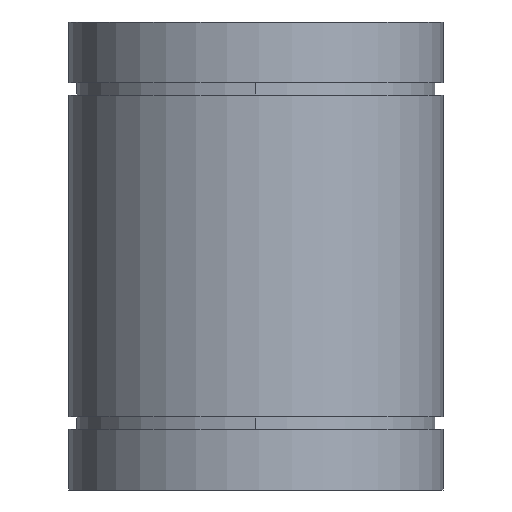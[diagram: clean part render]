
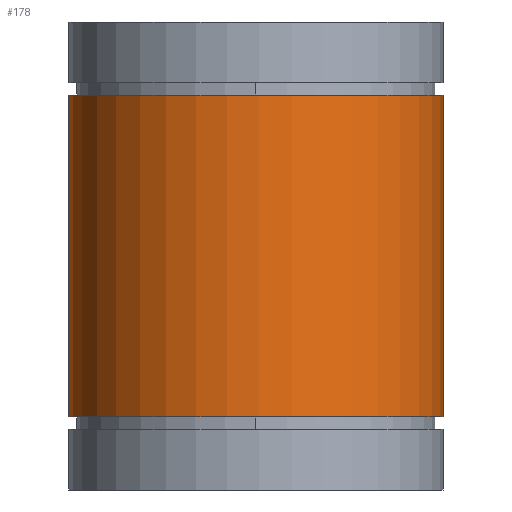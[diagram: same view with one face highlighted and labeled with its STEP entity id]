
A CAD part, front view. The second image highlights one B-rep face of the part: STEP entity #178.
In plain terms, the highlighted cylindrical face has radius 40 mm (diameter 80 mm), a partial arc.
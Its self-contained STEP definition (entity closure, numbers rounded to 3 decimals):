
#137=CARTESIAN_POINT('',(0.0,0.0,0.0));
#138=DIRECTION('',(0.0,0.0,1.0));
#139=DIRECTION('',(-1.0,0.0,0.0));
#140=AXIS2_PLACEMENT_3D('',#137,#138,#139);
#141=CYLINDRICAL_SURFACE('',#140,40.0);
#142=CARTESIAN_POINT('',(40.0,0.,84.4));
#143=VERTEX_POINT('',#142);
#144=CARTESIAN_POINT('',(40.0,0.,15.6));
#145=VERTEX_POINT('',#144);
#146=CARTESIAN_POINT('',(40.0,0.,84.4));
#147=DIRECTION('',(0.0,0.0,-1.0));
#148=VECTOR('',#147,68.8);
#149=LINE('',#146,#148);
#150=EDGE_CURVE('',#143,#145,#149,.T.);
#151=ORIENTED_EDGE('',*,*,#150,.F.);
#152=CARTESIAN_POINT('',(-39.972,-1.5,84.4));
#153=VERTEX_POINT('',#152);
#154=CARTESIAN_POINT('',(0.0,0.0,84.4));
#155=DIRECTION('',(0.0,0.0,-1.0));
#156=DIRECTION('',(-1.0,0.0,0.0));
#157=AXIS2_PLACEMENT_3D('',#154,#155,#156);
#158=CIRCLE('',#157,40.0);
#159=EDGE_CURVE('',#143,#153,#158,.T.);
#160=ORIENTED_EDGE('',*,*,#159,.T.);
#161=CARTESIAN_POINT('',(-39.972,-1.5,15.6));
#162=VERTEX_POINT('',#161);
#163=CARTESIAN_POINT('',(-39.972,-1.5,84.4));
#164=DIRECTION('',(0.0,0.0,-1.0));
#165=VECTOR('',#164,68.8);
#166=LINE('',#163,#165);
#167=EDGE_CURVE('',#153,#162,#166,.T.);
#168=ORIENTED_EDGE('',*,*,#167,.T.);
#169=CARTESIAN_POINT('',(0.0,0.0,15.6));
#170=DIRECTION('',(0.0,0.0,1.0));
#171=DIRECTION('',(-1.0,0.0,0.0));
#172=AXIS2_PLACEMENT_3D('',#169,#170,#171);
#173=CIRCLE('',#172,40.0);
#174=EDGE_CURVE('',#162,#145,#173,.T.);
#175=ORIENTED_EDGE('',*,*,#174,.T.);
#176=EDGE_LOOP('',(#151,#160,#168,#175));
#177=FACE_OUTER_BOUND('',#176,.T.);
#178=ADVANCED_FACE('',(#177),#141,.T.);
